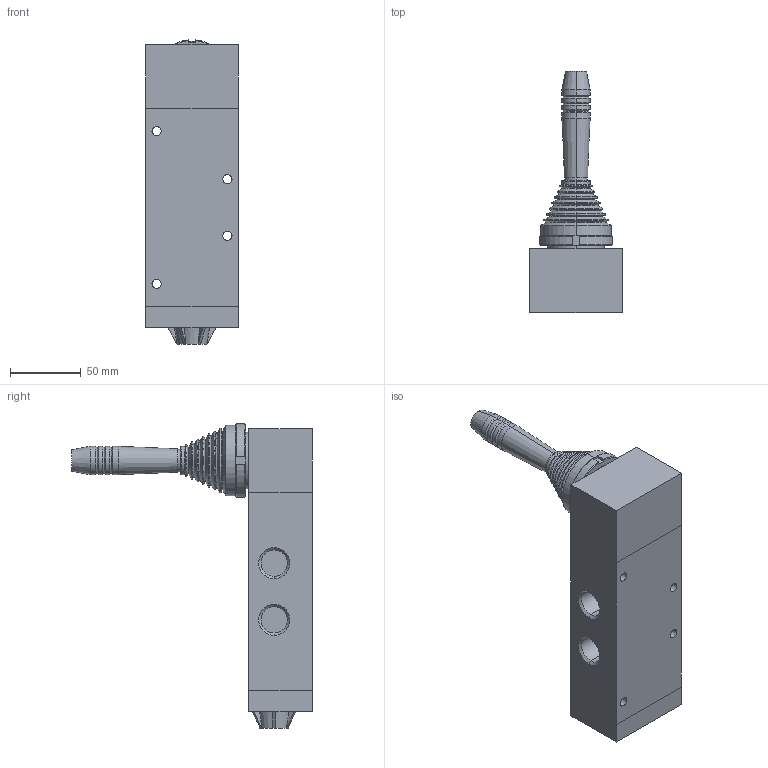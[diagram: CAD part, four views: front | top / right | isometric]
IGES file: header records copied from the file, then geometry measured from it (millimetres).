
Global section: file name: No Iges File Name specified; native system: AutoDesk Inventor R11.0; preprocessor: AutoDesk Inventor Iges Exporter R11.0; author: No Author specified; organization: No Organization specified; date: 20061219.152857; units: millimetre
Bounding box: 65 x 170 x 214.88 mm (x, y, z)
Volume: 643438.1 mm3; surface area: 75706.4 mm2
Topology: 2 solids, 2 shells, 195 faces, 446 edges, 270 vertices
Faces by surface type: cone 60, plane 56, bspline 25, cylinder 24, torus 16, revolution 14
